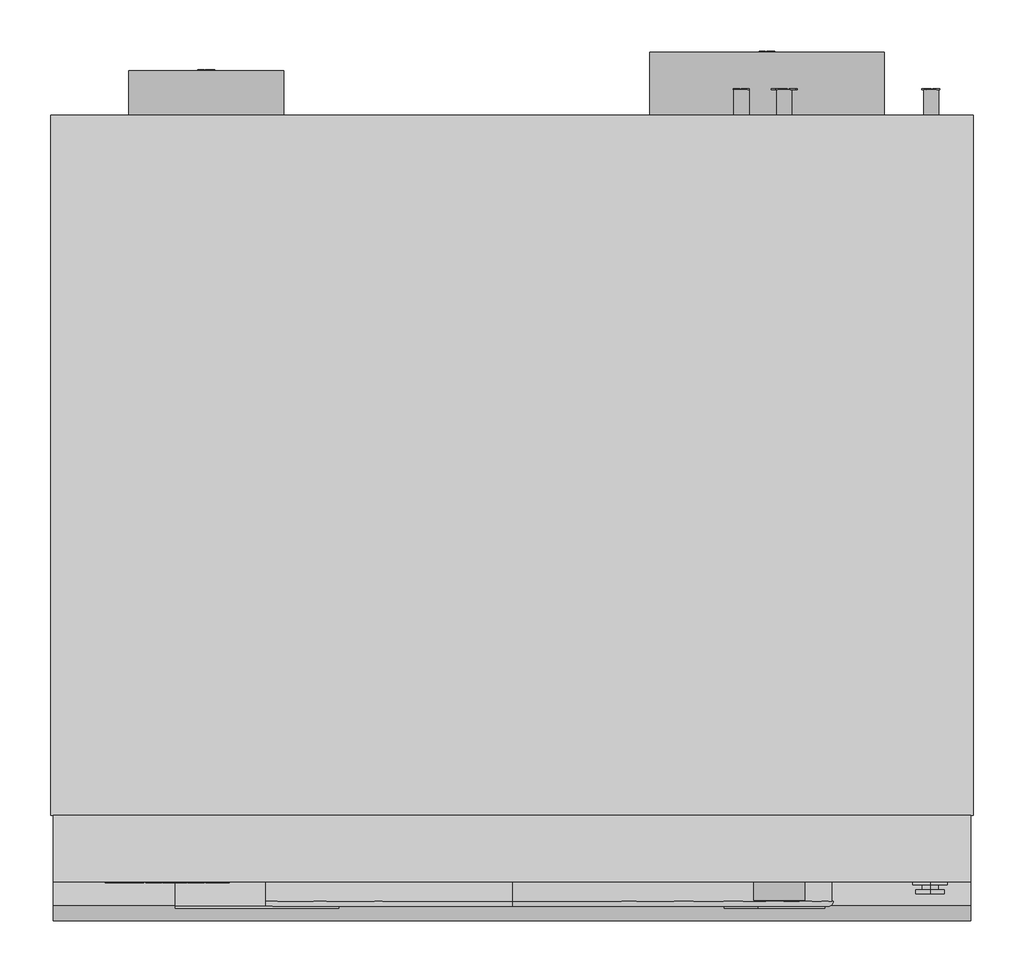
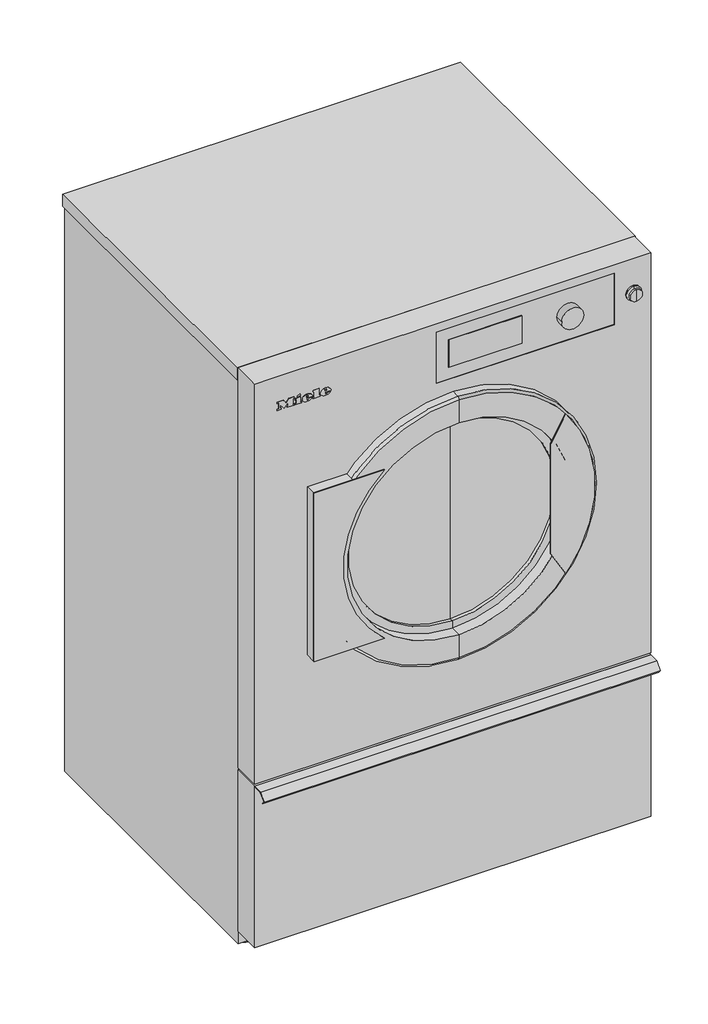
# Not in any storey: 1 proxy.
"""IFC4 building model written with IfcOpenShell, lengths in millimetres."""

from ifc_helpers import new_model, si_unit, origin, place, context, project, spatial, transform, mapped, element, save
from components import specialty_equipment_eb223854

model = new_model("IFC4")

# Units and contexts
model_context = context("Model", 3, world=origin())
ifc_project = project(units=[si_unit("LENGTHUNIT", "METRE", prefix="MILLI")], contexts=[model_context])

# Site, building
site = spatial("IfcSite", under=ifc_project)
building = spatial("IfcBuilding", under=site)

# Proxy
placement = place(None, origin())
specialty_equipment_shape = specialty_equipment_eb223854(model_context)
element("IfcBuildingElementProxy", 1, Name="11843380_SOM_PDR514ROPEL_IG : 52514011_SOM_11843380_PDR514ROPEL_IG", ObjectType="11843380_SOM_PDR514ROPEL_IG : 52514011_SOM_11843380_PDR514ROPEL_IG", at=placement, inside=building, context=model_context, shape_type="MappedRepresentation", body=[
    mapped(specialty_equipment_shape, transform((0.0, 0.0, 0.0), x_axis=(1.0, 0.0, 0.0), y_axis=(0.0, 1.0, 0.0), z_axis=(0.0, 0.0, 1.0))),
])

save(model, "model.ifc")
